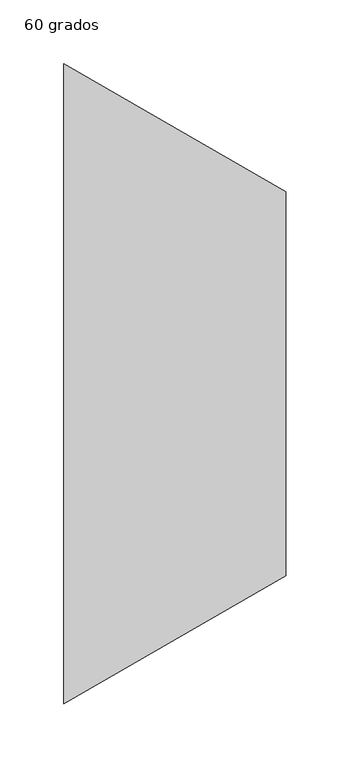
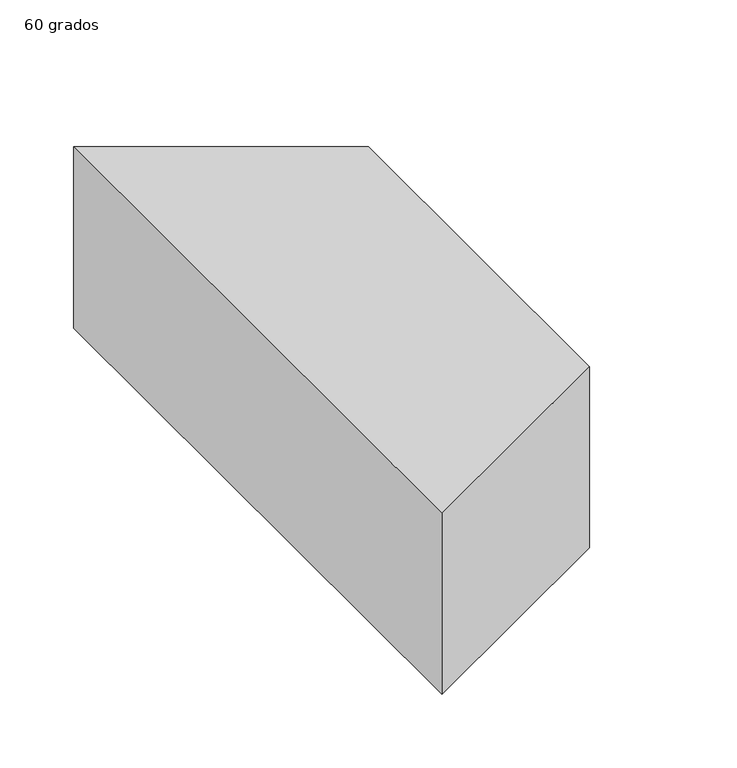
"""IFC4 building model written with IfcOpenShell, lengths in millimetres: duct fitting geometry, M_Transición rectangular - Ángulo : 60 grados."""

from ifc_helpers import new_model, si_unit, frame, origin, place, context, project, spatial, polyline, outline, extrude, source, transform, mapped, element, save


def duct_fitting_60_grados_5f717a60(model_context):
    return source(origin(), model_context, "Body", "SweptSolid", [
        extrude(outline(polyline([(0.0, -250.0), (0.0, 250.0), (173.2050808, 150.0), (173.2050808, -150.0), (0.0, -250.0)])), frame((0.0, 0.0, -75.0), z_axis=(0.0, 0.0, 1.0), x_axis=(1.0, 0.0, 0.0)), (0.0, 0.0, 1.0), 150.0),
    ])


if __name__ == "__main__":
    model = new_model("IFC4")
    model_context = context("Model", 3, world=origin())
    ifc_project = project(units=[si_unit("LENGTHUNIT", "METRE", prefix="MILLI")], contexts=[model_context])
    site = spatial("IfcSite", under=ifc_project)
    building = spatial("IfcBuilding", under=site)
    placement = place(None, origin())
    duct_fitting_60_grados_shape = duct_fitting_60_grados_5f717a60(model_context)
    element("IfcDuctFitting", 1, ObjectType="M_Transición rectangular - Ángulo : 60 grados", at=placement, inside=building, context=model_context, shape_type="MappedRepresentation", body=[
        mapped(duct_fitting_60_grados_shape, transform((0.0, 0.0, 0.0), x_axis=(1.0, 0.0, 0.0), y_axis=(0.0, 1.0, 0.0), z_axis=(0.0, 0.0, 1.0))),
    ])
    save(model, "model.ifc")
